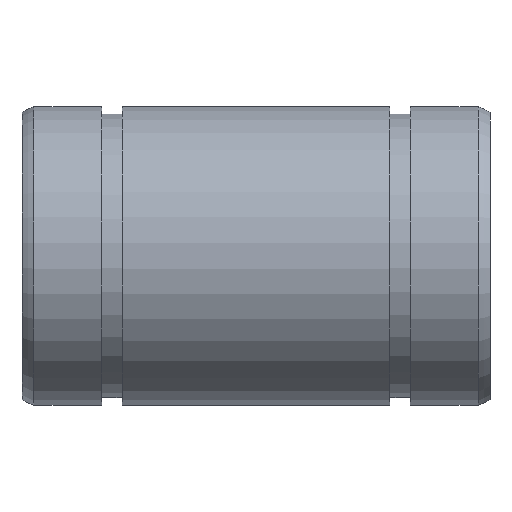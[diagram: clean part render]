
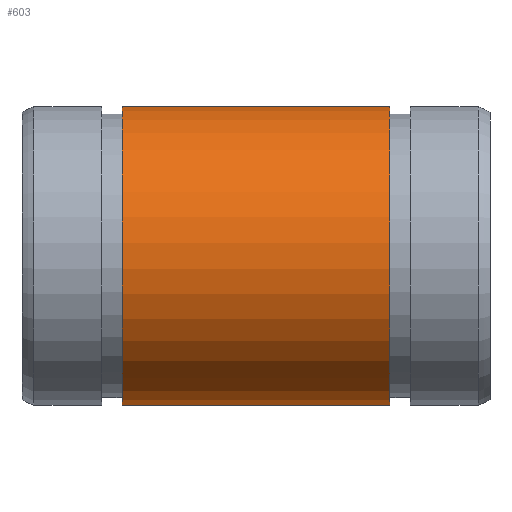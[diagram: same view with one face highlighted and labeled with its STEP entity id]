
A CAD part, front view. The second image highlights one B-rep face of the part: STEP entity #603.
In plain terms, the highlighted cylindrical face has radius 8 mm (diameter 16 mm), a partial arc.
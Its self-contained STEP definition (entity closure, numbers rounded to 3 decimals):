
#171=CARTESIAN_POINT('',(5.35,0.75,-7.965));
#172=VERTEX_POINT('',#171);
#179=CARTESIAN_POINT('',(19.65,0.75,-7.965));
#180=VERTEX_POINT('',#179);
#181=CARTESIAN_POINT('',(19.65,0.75,-7.965));
#182=DIRECTION('',(-1.0,0.0,0.0));
#183=VECTOR('',#182,14.3);
#184=LINE('',#181,#183);
#185=EDGE_CURVE('',#180,#172,#184,.T.);
#227=CARTESIAN_POINT('',(19.65,-0.75,-7.965));
#228=VERTEX_POINT('',#227);
#235=CARTESIAN_POINT('',(5.35,-0.75,-7.965));
#236=VERTEX_POINT('',#235);
#237=CARTESIAN_POINT('',(5.35,-0.75,-7.965));
#238=DIRECTION('',(1.0,0.0,0.0));
#239=VECTOR('',#238,14.3);
#240=LINE('',#237,#239);
#241=EDGE_CURVE('',#236,#228,#240,.T.);
#576=CARTESIAN_POINT('',(19.65,0.0,0.));
#577=DIRECTION('',(-1.0,0.0,0.0));
#578=DIRECTION('',(0.0,0.0,1.0));
#579=AXIS2_PLACEMENT_3D('',#576,#577,#578);
#580=CIRCLE('',#579,8.);
#581=EDGE_CURVE('',#228,#180,#580,.T.);
#586=CARTESIAN_POINT('',(12.5,0.0,0.));
#587=DIRECTION('',(-1.0,0.0,0.));
#588=DIRECTION('',(0.0,0.0,1.0));
#589=AXIS2_PLACEMENT_3D('',#586,#587,#588);
#590=CYLINDRICAL_SURFACE('',#589,8.);
#591=ORIENTED_EDGE('',*,*,#241,.T.);
#592=ORIENTED_EDGE('',*,*,#581,.T.);
#593=ORIENTED_EDGE('',*,*,#185,.T.);
#594=CARTESIAN_POINT('',(5.35,0.0,0.));
#595=DIRECTION('',(-1.0,0.0,0.0));
#596=DIRECTION('',(0.0,0.0,1.0));
#597=AXIS2_PLACEMENT_3D('',#594,#595,#596);
#598=CIRCLE('',#597,8.);
#599=EDGE_CURVE('',#236,#172,#598,.T.);
#600=ORIENTED_EDGE('',*,*,#599,.F.);
#601=EDGE_LOOP('',(#591,#592,#593,#600));
#602=FACE_OUTER_BOUND('',#601,.T.);
#603=ADVANCED_FACE('',(#602),#590,.T.);
